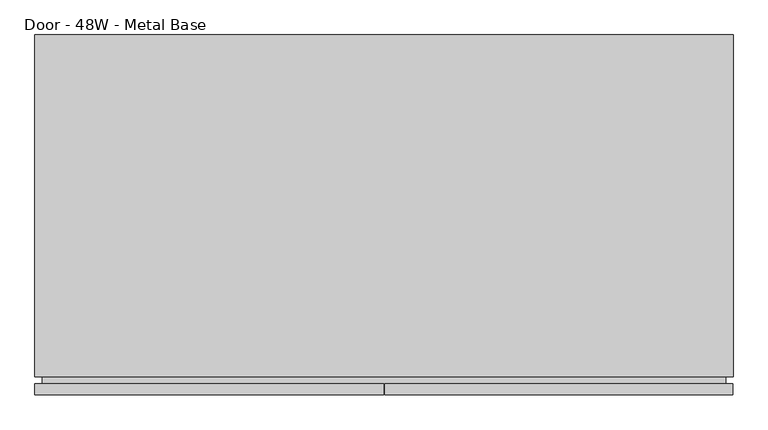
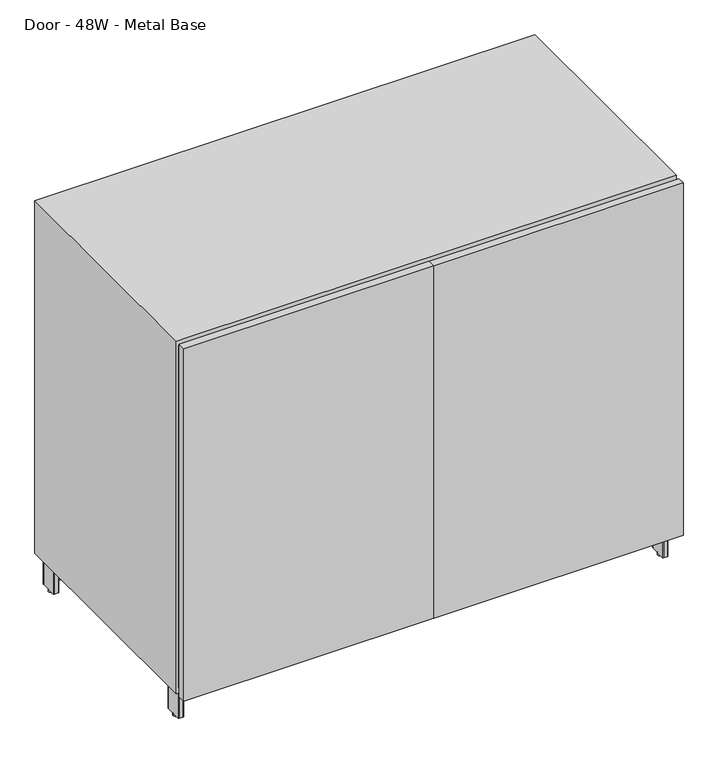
"""IFC4 building model written with IfcOpenShell, lengths in millimetres: furniture geometry, Steelcase Coalesse - Exponents - Storage - Credenza - 39H : Door - 48W - Metal Base."""

from ifc_helpers import new_model, si_unit, point, frame, frame_2d, origin, origin_with_axes, place, context, project, spatial, polyline, circle_curve, trimmed, segment, composite_curve, outline, extrude, faceted_brep, source, transform, mapped, element, save


def door_48w_metal_base_2e4e6eb2(model_context):
    return source(origin(), model_context, "Body", "SolidModel", [
        faceted_brep([(6.35, 31.75, 977.9), (6.35, 31.75, 95.25), (6.35, 622.3, 95.25), (6.35, 622.3, 977.9), (1212.85, 622.3, 95.25), (1212.85, 622.3, 977.9), (1212.85, 31.75, 95.25), (1212.85, 31.75, 977.9), (0.0, 31.75, 82.55), (1219.2, 31.75, 82.55), (1219.2, 31.75, 990.6), (0.0, 31.75, 990.6), (1219.2, 628.65, 82.55), (1219.2, 628.65, 990.6), (0.0, 628.65, 82.55), (0.0, 628.65, 990.6)], [[[0, 1, 2, 3]], [[3, 2, 4, 5]], [[5, 4, 6, 7]], [[8, 9, 10, 11], [7, 6, 1, 0]], [[10, 9, 12, 13]], [[13, 12, 14, 15]], [[15, 14, 8, 11]], [[7, 0, 3, 5]], [[10, 13, 15, 11]], [[1, 6, 4, 2]], [[12, 9, 8, 14]]]),
        extrude(outline(composite_curve([segment(polyline([(1195.5506426, 615.95), (1204.722, 615.95)]), True, "CONTINUOUS"), segment(trimmed(circle_curve(frame_2d((1204.722, 614.172)), 1.778), [point((1204.722, 615.95))], [point((1206.5, 614.172))], False, "CARTESIAN"), True, "CONTINUOUS"), segment(polyline([(1206.5, 614.172), (1206.5, 572.9986)]), True, "CONTINUOUS"), segment(trimmed(circle_curve(frame_2d((1204.722, 572.9986)), 1.778), [point((1206.5, 572.9986))], [point((1204.722, 571.2206))], False, "CARTESIAN"), True, "CONTINUOUS"), segment(polyline([(1204.722, 571.2206), (1195.5948916, 571.2206)]), True, "CONTINUOUS"), segment(trimmed(circle_curve(frame_2d((1195.5948916, 573.0154916)), 1.7948916), [point((1195.5948916, 571.2206))], [point((1193.8, 573.0154916))], False, "CARTESIAN"), True, "CONTINUOUS"), segment(polyline([(1193.8, 573.0154916), (1193.8, 614.1993574)]), True, "CONTINUOUS"), segment(trimmed(circle_curve(frame_2d((1195.5506426, 614.1993574)), 1.7506426), [point((1193.8, 614.1993574))], [point((1195.5506426, 615.95))], False, "CARTESIAN"), True, "CONTINUOUS")], self_intersect=False)), frame((0.0, 0.0, 6.35), z_axis=(0.0, 0.0, 1.0), x_axis=(1.0, 0.0, 0.0)), (0.0, 0.0, 1.0), 73.4568),
        extrude(outline(composite_curve([segment(polyline([(1195.5506426, 88.9), (1204.722, 88.9)]), True, "CONTINUOUS"), segment(trimmed(circle_curve(frame_2d((1204.722, 87.122)), 1.778), [point((1204.722, 88.9))], [point((1206.5, 87.122))], False, "CARTESIAN"), True, "CONTINUOUS"), segment(polyline([(1206.5, 87.122), (1206.5, 45.9486)]), True, "CONTINUOUS"), segment(trimmed(circle_curve(frame_2d((1204.722, 45.9486)), 1.778), [point((1206.5, 45.9486))], [point((1204.722, 44.1706))], False, "CARTESIAN"), True, "CONTINUOUS"), segment(polyline([(1204.722, 44.1706), (1195.5948916, 44.1706)]), True, "CONTINUOUS"), segment(trimmed(circle_curve(frame_2d((1195.5948916, 45.9654916)), 1.7948916), [point((1195.5948916, 44.1706))], [point((1193.8, 45.9654916))], False, "CARTESIAN"), True, "CONTINUOUS"), segment(polyline([(1193.8, 45.9654916), (1193.8, 87.1493574)]), True, "CONTINUOUS"), segment(trimmed(circle_curve(frame_2d((1195.5506426, 87.1493574)), 1.7506426), [point((1193.8, 87.1493574))], [point((1195.5506426, 88.9))], False, "CARTESIAN"), True, "CONTINUOUS")], self_intersect=False)), frame((0.0, 0.0, 6.35), z_axis=(0.0, 0.0, 1.0), x_axis=(1.0, 0.0, 0.0)), (0.0, 0.0, 1.0), 73.4568),
        extrude(outline(composite_curve([segment(trimmed(circle_curve(frame_2d((1200.15, 593.5667033)), 6.35), [point((1200.15, 599.9167033))], [point((1200.15, 587.2167033))], False, "CARTESIAN"), True, "CONTINUOUS"), segment(trimmed(circle_curve(frame_2d((1200.15, 593.5667033)), 6.35), [point((1200.15, 587.2167033))], [point((1200.15, 599.9167033))], False, "CARTESIAN"), True, "CONTINUOUS")], self_intersect=False)), origin_with_axes(), (0.0, 0.0, 1.0), 6.35),
        extrude(outline(composite_curve([segment(trimmed(circle_curve(frame_2d((1200.15, 66.7867854)), 6.35), [point((1200.15, 73.1367854))], [point((1200.15, 60.4367854))], False, "CARTESIAN"), True, "CONTINUOUS"), segment(trimmed(circle_curve(frame_2d((1200.15, 66.7867854)), 6.35), [point((1200.15, 60.4367854))], [point((1200.15, 73.1367854))], False, "CARTESIAN"), True, "CONTINUOUS")], self_intersect=False)), origin_with_axes(), (0.0, 0.0, 1.0), 6.35),
        extrude(outline(polyline([(977.9, 1206.5), (977.9, 12.7), (95.25, 12.7), (95.25, 1206.5), (977.9, 1206.5)]), holes=[polyline([(971.55, 1200.15), (101.6, 1200.15), (101.6, 19.05), (971.55, 19.05), (971.55, 1200.15)])]), frame((0.0, 19.05, 0.0), z_axis=(0.0, 1.0, 0.0), x_axis=(0.0, 0.0, 1.0)), (0.0, 0.0, 1.0), 31.75),
        extrude(outline(polyline([(610.8800308, 345.280854), (1193.8, 598.591626), (1193.8, 577.8206777), (623.9741031, 330.2), (1193.8, 82.5793223), (1193.8, 61.808374), (611.177267, 314.9899805), (617.6101738, 329.7934165), (610.8800308, 345.280854)])), frame((0.0, 0.0, 34.925), z_axis=(0.0, 0.0, 1.0), x_axis=(1.0, 0.0, 0.0)), (0.0, 0.0, 1.0), 44.8818),
        extrude(outline(polyline([(1212.85, 520.7), (1111.25, 520.7), (1111.25, 622.3), (1212.85, 622.3), (1212.85, 520.7)])), frame((0.0, 0.0, 79.8068), z_axis=(0.0, 0.0, 1.0), x_axis=(1.0, 0.0, 0.0)), (0.0, 0.0, 1.0), 2.7432),
        extrude(outline(polyline([(1212.85, 139.7), (1212.85, 38.1), (1111.25, 38.1), (1111.25, 139.7), (1212.85, 139.7)])), frame((0.0, 0.0, 79.8068), z_axis=(0.0, 0.0, 1.0), x_axis=(1.0, 0.0, 0.0)), (0.0, 0.0, 1.0), 2.7432),
        extrude(outline(composite_curve([segment(trimmed(circle_curve(frame_2d((23.6493574, 614.1993574)), 1.7506426), [point((23.6493574, 615.95))], [point((25.4, 614.1993574))], False, "CARTESIAN"), True, "CONTINUOUS"), segment(polyline([(25.4, 614.1993574), (25.4, 573.0154916)]), True, "CONTINUOUS"), segment(trimmed(circle_curve(frame_2d((23.6051084, 573.0154916)), 1.7948916), [point((25.4, 573.0154916))], [point((23.6051084, 571.2206))], False, "CARTESIAN"), True, "CONTINUOUS"), segment(polyline([(23.6051084, 571.2206), (14.478, 571.2206)]), True, "CONTINUOUS"), segment(trimmed(circle_curve(frame_2d((14.478, 572.9986)), 1.778), [point((14.478, 571.2206))], [point((12.7, 572.9986))], False, "CARTESIAN"), True, "CONTINUOUS"), segment(polyline([(12.7, 572.9986), (12.7, 614.172)]), True, "CONTINUOUS"), segment(trimmed(circle_curve(frame_2d((14.478, 614.172)), 1.778), [point((12.7, 614.172))], [point((14.478, 615.95))], False, "CARTESIAN"), True, "CONTINUOUS"), segment(polyline([(14.478, 615.95), (23.6493574, 615.95)]), True, "CONTINUOUS")], self_intersect=False)), frame((0.0, 0.0, 6.35), z_axis=(0.0, 0.0, 1.0), x_axis=(1.0, 0.0, 0.0)), (0.0, 0.0, 1.0), 73.4568),
        extrude(outline(composite_curve([segment(trimmed(circle_curve(frame_2d((23.6493574, 87.1493574)), 1.7506426), [point((23.6493574, 88.9))], [point((25.4, 87.1493574))], False, "CARTESIAN"), True, "CONTINUOUS"), segment(polyline([(25.4, 87.1493574), (25.4, 45.9654916)]), True, "CONTINUOUS"), segment(trimmed(circle_curve(frame_2d((23.6051084, 45.9654916)), 1.7948916), [point((25.4, 45.9654916))], [point((23.6051084, 44.1706))], False, "CARTESIAN"), True, "CONTINUOUS"), segment(polyline([(23.6051084, 44.1706), (14.478, 44.1706)]), True, "CONTINUOUS"), segment(trimmed(circle_curve(frame_2d((14.478, 45.9486)), 1.778), [point((14.478, 44.1706))], [point((12.7, 45.9486))], False, "CARTESIAN"), True, "CONTINUOUS"), segment(polyline([(12.7, 45.9486), (12.7, 87.122)]), True, "CONTINUOUS"), segment(trimmed(circle_curve(frame_2d((14.478, 87.122)), 1.778), [point((12.7, 87.122))], [point((14.478, 88.9))], False, "CARTESIAN"), True, "CONTINUOUS"), segment(polyline([(14.478, 88.9), (23.6493574, 88.9)]), True, "CONTINUOUS")], self_intersect=False)), frame((0.0, 0.0, 6.35), z_axis=(0.0, 0.0, 1.0), x_axis=(1.0, 0.0, 0.0)), (0.0, 0.0, 1.0), 73.4568),
        extrude(outline(composite_curve([segment(trimmed(circle_curve(frame_2d((617.3743574, 347.4993574)), 1.7506426), [point((617.3743574, 349.25))], [point((619.125, 347.4993574))], False, "CARTESIAN"), True, "CONTINUOUS"), segment(polyline([(619.125, 347.4993574), (619.125, 312.9448916)]), True, "CONTINUOUS"), segment(trimmed(circle_curve(frame_2d((617.3301084, 312.9448916)), 1.7948916), [point((619.125, 312.9448916))], [point((617.3301084, 311.15))], False, "CARTESIAN"), True, "CONTINUOUS"), segment(polyline([(617.3301084, 311.15), (601.853, 311.15)]), True, "CONTINUOUS"), segment(trimmed(circle_curve(frame_2d((601.853, 312.928)), 1.778), [point((601.853, 311.15))], [point((600.075, 312.928))], False, "CARTESIAN"), True, "CONTINUOUS"), segment(polyline([(600.075, 312.928), (600.075, 347.472)]), True, "CONTINUOUS"), segment(trimmed(circle_curve(frame_2d((601.853, 347.472)), 1.778), [point((600.075, 347.472))], [point((601.853, 349.25))], False, "CARTESIAN"), True, "CONTINUOUS"), segment(polyline([(601.853, 349.25), (617.3743574, 349.25)]), True, "CONTINUOUS")], self_intersect=False)), frame((0.0, 0.0, 6.35), z_axis=(0.0, 0.0, 1.0), x_axis=(1.0, 0.0, 0.0)), (0.0, 0.0, 1.0), 73.4568),
        extrude(outline(polyline([(608.3199692, 345.280854), (601.5898262, 329.7934165), (608.022733, 314.9899805), (25.4, 61.808374), (25.4, 82.5793223), (595.2258969, 330.2), (25.4, 577.8206777), (25.4, 598.591626), (608.3199692, 345.280854)])), frame((0.0, 0.0, 34.925), z_axis=(0.0, 0.0, 1.0), x_axis=(1.0, 0.0, 0.0)), (0.0, 0.0, 1.0), 44.8818),
        extrude(outline(polyline([(1218.4126, 19.05), (1218.4126, 0.0), (610.5652, 0.0), (610.5652, 19.05), (1218.4126, 19.05)])), frame((0.0, 0.0, 82.55), z_axis=(0.0, 0.0, 1.0), x_axis=(1.0, 0.0, 0.0)), (0.0, 0.0, 1.0), 908.05),
        extrude(outline(polyline([(6.35, 520.7), (6.35, 622.3), (107.95, 622.3), (107.95, 520.7), (6.35, 520.7)])), frame((0.0, 0.0, 79.8068), z_axis=(0.0, 0.0, 1.0), x_axis=(1.0, 0.0, 0.0)), (0.0, 0.0, 1.0), 2.7432),
        extrude(outline(polyline([(6.35, 139.7), (107.95, 139.7), (107.95, 38.1), (6.35, 38.1), (6.35, 139.7)])), frame((0.0, 0.0, 79.8068), z_axis=(0.0, 0.0, 1.0), x_axis=(1.0, 0.0, 0.0)), (0.0, 0.0, 1.0), 2.7432),
        extrude(outline(polyline([(558.8, 379.0696809), (660.4, 379.0696809), (660.4, 277.4696809), (558.8, 277.4696809), (558.8, 379.0696809)])), frame((0.0, 0.0, 79.8068), z_axis=(0.0, 0.0, 1.0), x_axis=(1.0, 0.0, 0.0)), (0.0, 0.0, 1.0), 2.7432),
        extrude(outline(polyline([(608.965, 19.05), (608.965, 0.0), (0.0, 0.0), (0.0, 19.05), (608.965, 19.05)])), frame((0.0, 0.0, 82.55), z_axis=(0.0, 0.0, 1.0), x_axis=(1.0, 0.0, 0.0)), (0.0, 0.0, 1.0), 908.05),
        extrude(outline(composite_curve([segment(trimmed(circle_curve(frame_2d((19.05, 593.5667033)), 6.35), [point((12.7, 593.5667033))], [point((25.4, 593.5667033))], False, "CARTESIAN"), True, "CONTINUOUS"), segment(trimmed(circle_curve(frame_2d((19.05, 593.5667033)), 6.35), [point((25.4, 593.5667033))], [point((12.7, 593.5667033))], False, "CARTESIAN"), True, "CONTINUOUS")], self_intersect=False)), origin_with_axes(), (0.0, 0.0, 1.0), 6.35),
        extrude(outline(composite_curve([segment(trimmed(circle_curve(frame_2d((19.05, 66.7867854)), 6.35), [point((12.7, 66.7867854))], [point((25.4, 66.7867854))], False, "CARTESIAN"), True, "CONTINUOUS"), segment(trimmed(circle_curve(frame_2d((19.05, 66.7867854)), 6.35), [point((25.4, 66.7867854))], [point((12.7, 66.7867854))], False, "CARTESIAN"), True, "CONTINUOUS")], self_intersect=False)), origin_with_axes(), (0.0, 0.0, 1.0), 6.35),
        extrude(outline(composite_curve([segment(trimmed(circle_curve(frame_2d((609.7749308, 330.5590189)), 6.35), [point((603.4249308, 330.5590189))], [point((616.1249308, 330.5590189))], False, "CARTESIAN"), True, "CONTINUOUS"), segment(trimmed(circle_curve(frame_2d((609.7749308, 330.5590189)), 6.35), [point((616.1249308, 330.5590189))], [point((603.4249308, 330.5590189))], False, "CARTESIAN"), True, "CONTINUOUS")], self_intersect=False)), origin_with_axes(), (0.0, 0.0, 1.0), 6.35),
        extrude(outline(polyline([(0.0, -19.05), (0.0, 0.0), (31.75, 0.0), (31.75, -19.05), (0.0, -19.05)])), frame((590.55, 19.05, 101.6), z_axis=(3.3644198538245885e-12, 0.0, 1.0), x_axis=(0.0, 1.0, 0.0)), (0.0, 0.0, 1.0), 869.95),
        extrude(outline(polyline([(590.55, 609.6), (609.6, 609.6), (609.6, 50.8), (590.55, 50.8), (590.55, 609.6)])), frame((0.0, 0.0, 95.25), z_axis=(0.0, 0.0, 1.0), x_axis=(1.0, 0.0, 0.0)), (0.0, 0.0, 1.0), 882.65),
    ])


if __name__ == "__main__":
    model = new_model("IFC4")
    model_context = context("Model", 3, world=origin())
    ifc_project = project(units=[si_unit("LENGTHUNIT", "METRE", prefix="MILLI")], contexts=[model_context])
    site = spatial("IfcSite", under=ifc_project)
    building = spatial("IfcBuilding", under=site)
    placement = place(None, origin())
    door_48w_metal_base_shape = door_48w_metal_base_2e4e6eb2(model_context)
    element("IfcFurniture", 1, ObjectType="Steelcase Coalesse - Exponents - Storage - Credenza - 39H : Door - 48W - Metal Base", at=placement, inside=building, context=model_context, shape_type="MappedRepresentation", body=[
        mapped(door_48w_metal_base_shape, transform((0.0, 0.0, 0.0), x_axis=(1.0, 0.0, 0.0), y_axis=(0.0, 1.0, 0.0), z_axis=(0.0, 0.0, 1.0))),
    ])
    save(model, "model.ifc")
